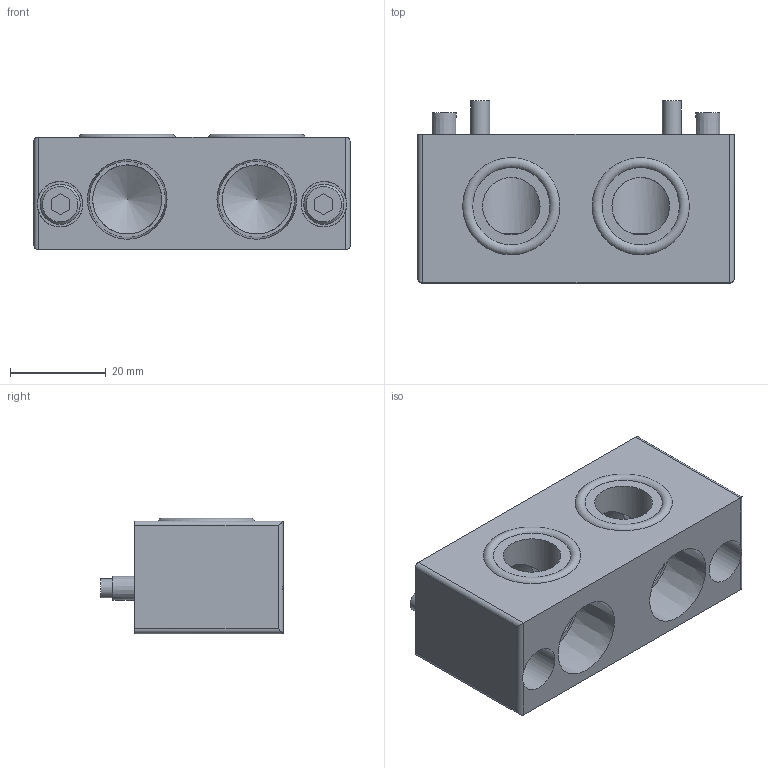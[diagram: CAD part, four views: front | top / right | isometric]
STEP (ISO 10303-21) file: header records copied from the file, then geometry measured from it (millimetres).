
FILE_DESCRIPTION(('STEP AP214'),'1');
FILE_NAME('KHB-45_300HS-EP102_ver1.stp','2026-04-27T07:51:51',(' '),(' '),'Spatial InterOp 3D',' ',' ');
FILE_SCHEMA(('AUTOMOTIVE_DESIGN { 1 0 10303 214 1 1 1 1 }'));
Length unit declared in the file: millimetre
Products named in the file (3): KHB-45~300HS-EP102_ver1; パーツ1
Assembly tree (2 placements, depth 2):
  KHB-45~300HS-EP102_ver1
    パーツ1
    パーツ1
Bounding box: 66 x 38 x 24.1 mm (x, y, z)
Volume: 35733 mm3; surface area: 13585.1 mm2
Topology: 2 solids, 3 shells, 73 faces, 165 edges, 108 vertices
Faces by surface type: plane 40, cylinder 23, cone 8, torus 2
Full cylindrical faces by diameter (mm): 4 x3, 5 x2, 5.5 x2, 8.385 x2, 9.5 x2, 12 x2, 14.4 x2
Entity records: 2598 total; most frequent: CARTESIAN_POINT 454, DIRECTION 324, ORIENTED_EDGE 252, AXIS2_PLACEMENT_3D 128, EDGE_CURVE 126, EDGE_LOOP 112, VERTEX_POINT 96, FACE_OUTER_BOUND 90
